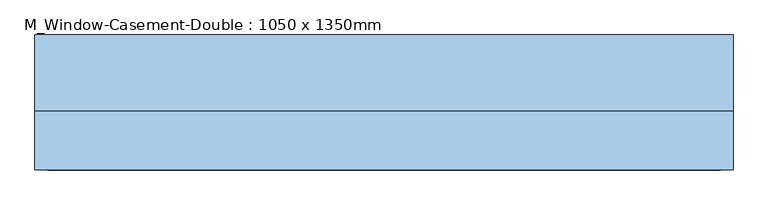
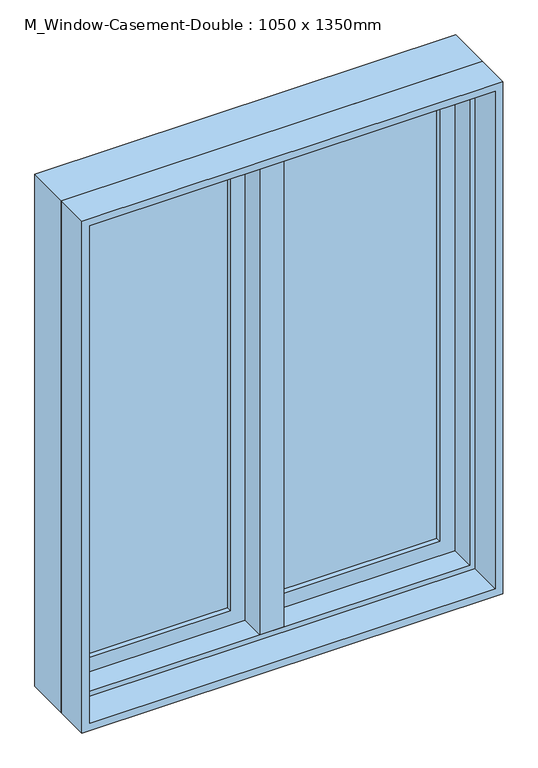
"""IFC4 building model written with IfcOpenShell, lengths in millimetres: window geometry, M_Window-Casement-Double : 1050 x 1350mm."""

from ifc_helpers import new_model, si_unit, frame, origin, place, context, project, spatial, polyline, outline, extrude, faceted_brep, source, transform, mapped, element, save


def m_window_casement_double_1050_x_1350mm_baccf237(model_context):
    return source(origin(), model_context, "Body", "SolidModel", [
        faceted_brep([(493.25, 60.25, 2218.25), (493.25, -3.25, 2218.25), (-493.25, -3.25, 2218.25), (-493.25, 60.25, 2218.25), (512.3, 111.05, 2237.3), (512.3, 60.25, 2237.3), (-512.3, 60.25, 2237.3), (-512.3, 111.05, 2237.3), (525.0, -3.25, 2250.0), (525.0, 111.05, 2250.0), (-525.0, 111.05, 2250.0), (-525.0, -3.25, 2250.0), (-493.25, -3.25, 931.75), (-493.25, 60.25, 931.75), (-512.3, 60.25, 912.7), (-512.3, 111.05, 912.7), (-525.0, 111.05, 900.0), (-525.0, -3.25, 900.0), (493.25, -3.25, 931.75), (493.25, 60.25, 931.75), (512.3, 60.25, 912.7), (512.3, 111.05, 912.7), (525.0, 111.05, 900.0), (525.0, -3.25, 900.0)], [[[0, 1, 2, 3]], [[4, 5, 6, 7]], [[8, 9, 10, 11]], [[3, 2, 12, 13]], [[7, 6, 14, 15]], [[11, 10, 16, 17]], [[13, 12, 18, 19]], [[15, 14, 20, 21]], [[17, 16, 22, 23]], [[11, 17, 23, 8], [1, 18, 12, 2]], [[19, 18, 1, 0]], [[5, 20, 14, 6], [3, 13, 19, 0]], [[21, 20, 5, 4]], [[23, 22, 9, 8]], [[9, 22, 16, 10], [7, 15, 21, 4]]]),
        extrude(outline(polyline([(2250.0, -525.0), (900.0, -525.0), (900.0, 525.0), (2250.0, 525.0), (2250.0, -525.0)]), holes=[polyline([(2230.95, 505.95), (919.05, 505.95), (919.05, -505.95), (2230.95, -505.95), (2230.95, 505.95)])]), frame((0.0, -92.0, 0.0), z_axis=(0.0, 1.0, 0.0), x_axis=(0.0, 0.0, 1.0)), (0.0, 0.0, 1.0), 88.75),
        extrude(outline(polyline([(912.7, 512.3), (2237.3, 512.3), (2237.3, 9.525), (912.7, 9.525), (912.7, 512.3)]), holes=[polyline([(969.85, 66.675), (2180.15, 66.675), (2180.15, 455.15), (969.85, 455.15), (969.85, 66.675)])]), frame((0.0, 60.25, 0.0), z_axis=(0.0, 1.0, 0.0), x_axis=(0.0, 0.0, 1.0)), (0.0, 0.0, 1.0), 44.45),
        extrude(outline(polyline([(2237.3, -512.3), (912.7, -512.3), (912.7, -9.525), (2237.3, -9.525), (2237.3, -512.3)]), holes=[polyline([(2180.15, -66.675), (969.85, -66.675), (969.85, -455.15), (2180.15, -455.15), (2180.15, -66.675)])]), frame((0.0, 60.25, 0.0), z_axis=(0.0, 1.0, 0.0), x_axis=(0.0, 0.0, 1.0)), (0.0, 0.0, 1.0), 44.45),
        extrude(outline(polyline([(455.15, 92.0), (455.15, 85.65), (66.675, 85.65), (66.675, 92.0), (455.15, 92.0)])), frame((0.0, 0.0, 969.85), z_axis=(0.0, 0.0, 1.0), x_axis=(1.0, 0.0, 0.0)), (0.0, 0.0, 1.0), 1210.3),
        extrude(outline(polyline([(66.675, 72.95), (66.675, 79.3), (455.15, 79.3), (455.15, 72.95), (66.675, 72.95)])), frame((0.0, 0.0, 969.85), z_axis=(0.0, 0.0, 1.0), x_axis=(1.0, 0.0, 0.0)), (0.0, 0.0, 1.0), 1210.3),
        extrude(outline(polyline([(-66.675, 92.0), (-66.675, 85.65), (-455.15, 85.65), (-455.15, 92.0), (-66.675, 92.0)])), frame((0.0, 0.0, 969.85), z_axis=(0.0, 0.0, 1.0), x_axis=(1.0, 0.0, 0.0)), (0.0, 0.0, 1.0), 1210.3),
        extrude(outline(polyline([(-455.15, 72.95), (-455.15, 79.3), (-66.675, 79.3), (-66.675, 72.95), (-455.15, 72.95)])), frame((0.0, 0.0, 969.85), z_axis=(0.0, 0.0, 1.0), x_axis=(1.0, 0.0, 0.0)), (0.0, 0.0, 1.0), 1210.3),
        faceted_brep([(9.525, 111.05, 2237.3), (-9.525, 111.05, 2237.3), (-9.525, 60.25, 2237.3), (9.525, 60.25, 2237.3), (9.525, 111.05, 912.7), (9.525, 60.25, 912.7), (-9.525, 60.25, 912.7), (-9.525, 111.05, 912.7), (-9.525, 60.25, 931.75), (-9.525, 60.25, 2218.25), (-30.1625, 60.25, 931.75), (-30.1625, 60.25, 2218.25), (-30.1625, -3.25, 931.75), (-30.1625, -3.25, 2218.25), (30.1625, -3.25, 931.75), (30.1625, -3.25, 2218.25), (30.1625, 60.25, 931.75), (30.1625, 60.25, 2218.25), (9.525, 60.25, 931.75), (9.525, 60.25, 2218.25)], [[[0, 1, 2, 3]], [[4, 5, 6, 7]], [[1, 0, 4, 7]], [[2, 1, 7, 6, 8, 9]], [[9, 8, 10, 11]], [[11, 10, 12, 13]], [[13, 12, 14, 15]], [[15, 14, 16, 17]], [[17, 16, 18, 19]], [[0, 3, 19, 18, 5, 4]], [[18, 8, 6, 5]], [[9, 19, 3, 2]], [[8, 18, 16, 14, 12, 10]], [[19, 9, 11, 13, 15, 17]]]),
    ])


if __name__ == "__main__":
    model = new_model("IFC4")
    model_context = context("Model", 3, world=origin())
    ifc_project = project(units=[si_unit("LENGTHUNIT", "METRE", prefix="MILLI")], contexts=[model_context])
    site = spatial("IfcSite", under=ifc_project)
    building = spatial("IfcBuilding", under=site)
    placement = place(None, origin())
    m_window_casement_double_1050_x_1350mm_shape = m_window_casement_double_1050_x_1350mm_baccf237(model_context)
    element("IfcWindow", 1, ObjectType="M_Window-Casement-Double : 1050 x 1350mm", at=placement, inside=building, context=model_context, shape_type="MappedRepresentation", body=[
        mapped(m_window_casement_double_1050_x_1350mm_shape, transform((0.0, 0.0, 0.0), x_axis=(1.0, 0.0, 0.0), y_axis=(0.0, 1.0, 0.0), z_axis=(0.0, 0.0, 1.0))),
    ])
    save(model, "model.ifc")
